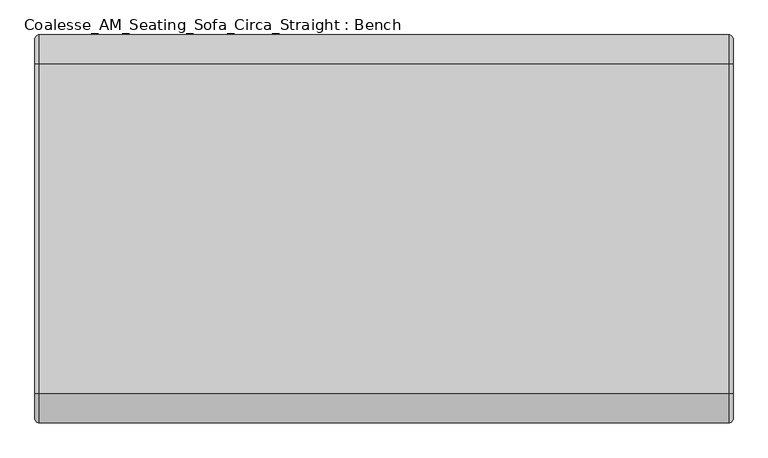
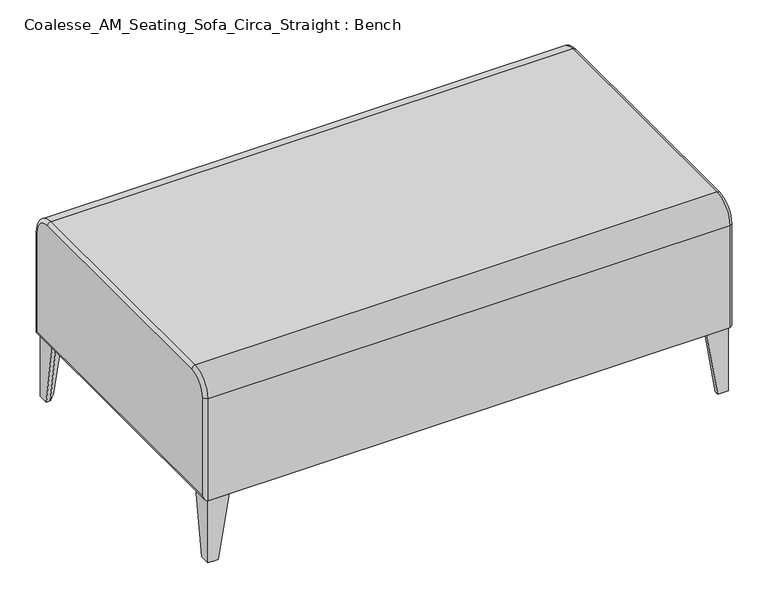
"""IFC4 building model written with IfcOpenShell, lengths in millimetres: furniture geometry, Coalesse_AM_Seating_Sofa_Circa_Straight : Bench."""

from ifc_helpers import new_model, si_unit, point, frame, origin, place, context, project, spatial, circle_curve, ellipse_curve, trimmed, source, transform, mapped, element, save
from ifc_brep_helpers import plane_surface, cylinder_surface, revolved_surface, spline_surface, advanced_brep


def coalesse_am_seating_sofa_circa_straight_bench_58bbb06b(model_context):
    return source(origin(), model_context, "Body", "AdvancedBrep", [
        advanced_brep(
        [(595.8545628, 917.5478073, 0.0), (595.8545628, 892.1487762, 0.0), (586.3301441, 892.1487762, 0.0), (570.4555317, 908.0230979, 0.0), (570.4555317, 917.5478073, 0.0), (595.8545628, 917.5478073, 159.3946494), (545.057082, 917.5475166, 159.3946494), (545.057082, 908.0230979, 159.3946494), (586.3301441, 866.7503265, 159.3946494), (595.8545628, 866.7503265, 159.3946494)],
        [
            (0, 1),
            (1, 2),
            (2, 3),
            (3, 4),
            (4, 0),
            (5, 6),
            (6, 7),
            (7, 8),
            (8, 9),
            (9, 5),
            (9, 1),
            (0, 5),
            (8, 2),
            (7, 3),
            (6, 4),
        ],
        [
            plane_surface(frame((583.7900666, 905.483253, 0.0), z_axis=(0.0, 0.0, -1.0000000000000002), x_axis=(0.7071132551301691, -0.7071003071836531, 0.0))),
            plane_surface(frame((573.6306867, 895.323815, 159.3946494), z_axis=(0.0, 0.0, 1.0000000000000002), x_axis=(0.7071132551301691, -0.7071003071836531, 0.0))),
            plane_surface(frame((595.8545628, 892.1490669, 159.3946494), z_axis=(1.0, 0.0, 0.0), x_axis=(0.0, -1.0, 0.0))),
            plane_surface(frame((591.0923534, 866.7503265, 159.3946494), z_axis=(0.0, -0.987541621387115, -0.15735801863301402), x_axis=(-1.0, 0.0, 0.0))),
            spline_surface(1, 1, [[(586.3301441, 866.7503265, 159.3946494), (586.3301441, 892.1487762, 0.0)], [(545.057082, 908.0230979, 159.3946494), (570.4555317, 908.0230979, 0.0)]], [2, 2], [2, 2], [0.0, 1.0], [0.0, 1.0]),
            plane_surface(frame((545.057082, 912.7853073, 159.3946494), z_axis=(-0.9875416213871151, 0.0, -0.15735801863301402), x_axis=(0.0, 1.0, 0.0))),
            spline_surface(1, 1, [[(545.057082, 917.5475166, 159.3946494), (570.4555317, 917.5478073, 0.0)], [(595.8545628, 917.5478073, 159.3946494), (595.8545628, 917.5478073, 0.0)]], [2, 2], [2, 2], [0.0, 1.0], [0.0, 1.0]),
        ],
        [
            (0, [[1, 2, 3, 4, 5]]),
            (1, [[6, 7, 8, 9, 10]]),
            (2, [[-10, 11, -1, 12]]),
            (3, [[-9, 13, -2, -11]]),
            (4, [[-8, 14, -3, -13]]),
            (5, [[-7, 15, -4, -14]]),
            (6, [[-6, -12, -5, -15]]),
        ],
    ),
        advanced_brep(
        [(-654.2661855, 917.5993121, 0.0), (-628.8671545, 917.5993121, 0.0), (-628.8671545, 908.07473, 0.0), (-644.7411855, 892.2004991, 0.0), (-654.2661855, 892.2004991, 0.0), (-654.2661855, 917.5993121, 159.3946494), (-654.2661855, 866.8017405, 159.3946494), (-644.7411855, 866.8017405, 159.3946494), (-603.4687048, 908.0746936, 159.3946494), (-603.4687048, 917.5992576, 159.3946494)],
        [
            (0, 1),
            (1, 2),
            (2, 3),
            (3, 4),
            (4, 0),
            (5, 6),
            (6, 7),
            (7, 8),
            (8, 9),
            (9, 5),
            (9, 1),
            (0, 5),
            (8, 2),
            (7, 3),
            (6, 4),
        ],
        [
            plane_surface(frame((-642.2015731, 905.5348705, 0.0), z_axis=(0.0, 0.0, -1.0), x_axis=(0.7071023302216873, 0.7071112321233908, 0.0))),
            plane_surface(frame((-632.0421932, 895.3753489, 159.3946494), z_axis=(0.0, 0.0, 1.0), x_axis=(0.7071023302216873, 0.7071112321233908, 0.0))),
            spline_surface(1, 1, [[(-654.2661855, 917.5993121, 159.3946494), (-654.2661855, 917.5993121, 0.0)], [(-603.4687048, 917.5992576, 159.3946494), (-628.8671545, 917.5993121, 0.0)]], [2, 2], [2, 2], [0.0, 1.0], [0.0, 1.0]),
            plane_surface(frame((-603.4687048, 912.8369756, 159.3946494), z_axis=(0.9875416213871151, 0.0, -0.15735801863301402), x_axis=(0.0, -1.0, 0.0))),
            spline_surface(1, 1, [[(-603.4687048, 908.0746936, 159.3946494), (-628.8671545, 908.07473, 0.0)], [(-644.7411855, 866.8017405, 159.3946494), (-644.7411855, 892.2004991, 0.0)]], [2, 2], [2, 2], [0.0, 1.0], [0.0, 1.0]),
            plane_surface(frame((-649.5036855, 866.8017405, 159.3946494), z_axis=(0.0, -0.9875413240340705, -0.15735988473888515), x_axis=(-1.0, 0.0, 0.0))),
            plane_surface(frame((-654.2661855, 892.2005263, 159.3946494), z_axis=(-1.0, 0.0, 0.0), x_axis=(0.0, 1.0, 0.0))),
        ],
        [
            (0, [[1, 2, 3, 4, 5]]),
            (1, [[6, 7, 8, 9, 10]]),
            (2, [[-10, 11, -1, 12]]),
            (3, [[-9, 13, -2, -11]]),
            (4, [[-8, 14, -3, -13]]),
            (5, [[-7, 15, -4, -14]]),
            (6, [[-6, -12, -5, -15]]),
        ],
    ),
        advanced_brep(
        [(570.4555317, 228.8261833, 0.0), (586.3301441, 244.700505, 0.0), (595.8545628, 244.700505, 0.0), (595.8545628, 219.3017646, 0.0), (570.4561131, 219.3017646, 0.0), (545.057082, 228.8261833, 159.3946494), (545.057082, 219.3017646, 159.3946494), (595.8545628, 219.3017646, 159.3946494), (595.8545628, 270.0992454, 159.3946494), (586.3301441, 270.0992454, 159.3946494)],
        [
            (0, 1),
            (1, 2),
            (2, 3),
            (3, 4),
            (4, 0),
            (5, 6),
            (6, 7),
            (7, 8),
            (8, 9),
            (9, 5),
            (9, 1),
            (0, 5),
            (8, 2),
            (7, 3),
            (6, 4),
        ],
        [
            plane_surface(frame((583.7901829, 231.3661445, 0.0), z_axis=(0.0, 0.0, -1.0), x_axis=(6.103888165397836e-05, -0.9999999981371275, 0.0))),
            plane_surface(frame((573.6306867, 241.5256407, 159.3946494), z_axis=(0.0, 0.0, 1.0), x_axis=(6.103888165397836e-05, -0.9999999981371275, 0.0))),
            spline_surface(1, 1, [[(545.057082, 228.8261833, 159.3946494), (570.4555317, 228.8261833, 0.0)], [(586.3301441, 270.0992454, 159.3946494), (586.3301441, 244.700505, 0.0)]], [2, 2], [2, 2], [0.0, 1.0], [0.0, 1.0]),
            plane_surface(frame((591.0923534, 270.0992454, 159.3946494), z_axis=(0.0, 0.9875413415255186, -0.1573597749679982), x_axis=(1.0, 0.0, 0.0))),
            plane_surface(frame((595.8545628, 244.700505, 159.3946494), z_axis=(1.0, 0.0, 0.0), x_axis=(0.0, -1.0, 0.0))),
            plane_surface(frame((570.4558224, 219.3017646, 159.3946494), z_axis=(0.0, -1.0, 0.0), x_axis=(-1.0, 0.0, 0.0))),
            spline_surface(1, 1, [[(545.057082, 219.3017646, 159.3946494), (570.4561131, 219.3017646, 0.0)], [(545.057082, 228.8261833, 159.3946494), (570.4555317, 228.8261833, 0.0)]], [2, 2], [2, 2], [0.0, 1.0], [0.0, 1.0]),
        ],
        [
            (0, [[1, 2, 3, 4, 5]]),
            (1, [[6, 7, 8, 9, 10]]),
            (2, [[-10, 11, -1, 12]]),
            (3, [[-9, 13, -2, -11]]),
            (4, [[-8, 14, -3, -13]]),
            (5, [[-7, 15, -4, -14]]),
            (6, [[-6, -12, -5, -15]]),
        ],
    ),
        advanced_brep(
        [(-654.2656042, 219.3521007, 0.0), (-654.2656042, 244.7521007, 0.0), (-644.7411855, 244.7521734, 0.0), (-628.8671545, 228.8778516, 0.0), (-628.8671545, 219.3521007, 0.0), (-654.2661855, 219.3532877, 159.3946494), (-603.4681234, 219.3533603, 159.3946494), (-603.4681234, 228.877997, 159.3946494), (-644.7411855, 270.1507684, 159.3946494), (-654.2661855, 270.1507684, 159.3946494)],
        [
            (0, 1),
            (1, 2),
            (2, 3),
            (3, 4),
            (4, 0),
            (5, 6),
            (6, 7),
            (7, 8),
            (8, 9),
            (9, 5),
            (9, 1),
            (0, 5),
            (8, 2),
            (7, 3),
            (6, 4),
        ],
        [
            plane_surface(frame((-642.2013406, 231.4172654, 0.0), z_axis=(0.0, 0.0, -1.0), x_axis=(0.0, -1.0, 0.0))),
            plane_surface(frame((-632.0419607, 241.5772364, 159.3946494), z_axis=(0.0, 0.0, 1.0), x_axis=(0.0, -1.0, 0.0))),
            plane_surface(frame((-654.2661855, 244.752028, 159.3946494), z_axis=(-0.9999999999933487, 0.0, -3.647298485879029e-06), x_axis=(0.0, 1.0, 0.0))),
            spline_surface(1, 1, [[(-654.2661855, 270.1507684, 159.3946494), (-654.2656042, 244.7521007, 0.0)], [(-644.7411855, 270.1507684, 159.3946494), (-644.7411855, 244.7521734, 0.0)]], [2, 2], [2, 2], [0.0, 1.0], [0.0, 1.0]),
            spline_surface(1, 1, [[(-644.7411855, 270.1507684, 159.3946494), (-644.7411855, 244.7521734, 0.0)], [(-603.4681234, 228.877997, 159.3946494), (-628.8671545, 228.8778516, 0.0)]], [2, 2], [2, 2], [0.0, 1.0], [0.0, 1.0]),
            plane_surface(frame((-603.4681234, 224.1156786, 159.3946494), z_axis=(0.9875410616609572, 0.0, -0.1573615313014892), x_axis=(0.0, -1.0, 0.0))),
            spline_surface(1, 1, [[(-603.4681234, 219.3533603, 159.3946494), (-628.8671545, 219.3521007, 0.0)], [(-654.2661855, 219.3532877, 159.3946494), (-654.2656042, 219.3521007, 0.0)]], [2, 2], [2, 2], [0.0, 1.0], [0.0, 1.0]),
        ],
        [
            (0, [[1, 2, 3, 4, 5]]),
            (1, [[6, 7, 8, 9, 10]]),
            (2, [[-10, 11, -1, 12]]),
            (3, [[-9, 13, -2, -11]]),
            (4, [[-8, 14, -3, -13]]),
            (5, [[-7, 15, -4, -14]]),
            (6, [[-6, -12, -5, -15]]),
        ],
    ),
        advanced_brep(
        [(597.9799136, 216.2403236, 419.7526008), (-655.8157576, 216.2403236, 419.7526008), (-655.8157576, 216.2403236, 160.6436337), (597.9799136, 216.2403236, 160.6436337), (-663.917922, 224.342488, 419.7526008), (-663.917922, 224.342488, 168.7457981), (-655.8157576, 269.8674471, 473.3797243), (597.9799136, 269.8674471, 473.3797243), (597.9799136, 868.9447213, 473.3797243), (-655.8157576, 868.9447213, 473.3797243), (-663.917922, 269.8674471, 465.2775599), (-663.917922, 868.9447213, 465.2775599), (606.082078, 269.8674471, 465.2775599), (606.082078, 868.9447213, 465.2775599), (597.9799136, 922.7653958, 419.5590499), (-655.8157576, 922.7653958, 419.5590499), (-663.917922, 914.6632313, 419.5590499), (606.082078, 914.6632313, 419.5590499), (597.9799136, 922.5293225, 160.6436337), (-655.8157576, 922.5293225, 160.6436337), (-663.917922, 914.4345422, 168.7457981), (606.082078, 914.4345422, 168.7457981), (606.082078, 224.342488, 168.7457981), (606.082078, 224.342488, 419.7526008)],
        [
            (0, 1),
            (1, 2),
            (2, 3),
            (3, 0),
            (1, 4, circle_curve(frame((-655.8157576, 224.342488, 419.7526008), z_axis=(0.0, 0.0, -1.0), x_axis=(0.0, 1.0, 0.0)), 8.1021644)),
            (4, 5),
            (5, 2, ellipse_curve(frame((-655.8157576, 224.342488, 168.7457981), z_axis=(0.0, -0.7071067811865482, 0.7071067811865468), x_axis=(0.0, -0.7071067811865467, -0.7071067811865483)), 11.4581908, 8.1021644)),
            (6, 7),
            (7, 8),
            (8, 9),
            (9, 6),
            (10, 6, circle_curve(frame((-655.8157576, 269.8674471, 465.2775599), z_axis=(0.0, 1.0, 0.0), x_axis=(0.0, 0.0, -1.0)), 8.1021644)),
            (9, 11, circle_curve(frame((-655.8157576, 868.9447213, 465.2775599), z_axis=(0.0, -1.0, 0.0), x_axis=(0.0, 0.0, -1.0)), 8.1021644)),
            (11, 10),
            (12, 13),
            (13, 8, circle_curve(frame((597.9799136, 868.9447213, 465.2775599), z_axis=(0.0, -1.0, 0.0), x_axis=(0.0, 0.0, -1.0)), 8.1021644)),
            (7, 12, circle_curve(frame((597.9799136, 269.8674471, 465.2775599), z_axis=(0.0, 1.0, 0.0), x_axis=(0.0, 0.0, -1.0)), 8.1021644)),
            (8, 14, circle_curve(frame((597.9799136, 868.9447213, 419.5590499), z_axis=(-1.0, 0.0, 0.0), x_axis=(0.0, 0.0, 1.0)), 53.8206744)),
            (14, 15),
            (15, 9, circle_curve(frame((-655.8157576, 868.9447213, 419.5590499), z_axis=(1.0, 0.0, 0.0), x_axis=(0.0, 0.0, 1.0)), 53.8206744)),
            (16, 11, circle_curve(frame((-663.917922, 868.9447213, 419.5590499), z_axis=(1.0, 0.0, 0.0), x_axis=(0.0, 0.0, 1.0)), 45.71851)),
            (15, 16, circle_curve(frame((-655.8157576, 914.6632313, 419.5590499), z_axis=(0.0, 0.0, 1.0), x_axis=(0.0, -1.0, 0.0)), 8.1021644)),
            (13, 17, circle_curve(frame((606.082078, 868.9447213, 419.5590499), z_axis=(-1.0, 0.0, 0.0), x_axis=(0.0, 0.0, 1.0)), 45.71851)),
            (17, 14, circle_curve(frame((597.9799136, 914.6632313, 419.5590499), z_axis=(0.0, 0.0, 1.0), x_axis=(0.0, -1.0, 0.0)), 8.1021644)),
            (14, 18),
            (18, 19),
            (19, 15),
            (20, 16),
            (19, 20, ellipse_curve(frame((-655.8157576, 914.4345422, 168.7457981), z_axis=(0.0, 0.7074290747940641, 0.7067843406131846), x_axis=(0.0, -0.7067843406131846, 0.7074290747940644)), 11.4529706, 8.1021644)),
            (17, 21),
            (21, 18, ellipse_curve(frame((597.9799136, 914.4345422, 168.7457981), z_axis=(0.0, 0.7074290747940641, 0.7067843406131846), x_axis=(0.0, -0.7067843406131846, 0.7074290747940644)), 11.4529706, 8.1021644)),
            (18, 3),
            (2, 19),
            (5, 20),
            (21, 22),
            (22, 3, ellipse_curve(frame((597.9799136, 224.342488, 168.7457981), z_axis=(0.0, 0.7071067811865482, -0.7071067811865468), x_axis=(0.0, 0.7071067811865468, 0.7071067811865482)), 11.4581908, 8.1021644)),
            (22, 23),
            (23, 0, circle_curve(frame((597.9799136, 224.342488, 419.7526008), z_axis=(0.0, 0.0, -1.0), x_axis=(0.0, 1.0, 0.0)), 8.1021644)),
            (6, 1, circle_curve(frame((-655.8157576, 269.8674471, 419.7526008), z_axis=(1.0, 0.0, 0.0), x_axis=(0.0, -1.0, 0.0)), 53.6271235)),
            (0, 7, circle_curve(frame((597.9799136, 269.8674471, 419.7526008), z_axis=(-1.0, 0.0, 0.0), x_axis=(0.0, -1.0, 0.0)), 53.6271235)),
            (10, 4, circle_curve(frame((-663.917922, 269.8674471, 419.7526008), z_axis=(1.0, 0.0, 0.0), x_axis=(0.0, -1.0, 0.0)), 45.5249591)),
            (12, 23, circle_curve(frame((606.082078, 269.8674471, 419.7526008), z_axis=(1.0, 0.0, 0.0), x_axis=(0.0, -1.0, 0.0)), 45.5249591)),
        ],
        [
            plane_surface(frame((597.9799136, 216.2403236, 160.6436337), z_axis=(0.0, -1.0, 0.0), x_axis=(0.0, 0.0, 1.0))),
            cylinder_surface(frame((-655.8157576, 224.342488, 169.8207572), z_axis=(0.0, 0.0, -1.0), x_axis=(0.0, 1.0, 0.0)), 8.1021644),
            plane_surface(frame((597.9799136, 269.8674471, 473.3797243), z_axis=(0.0, 0.0, 1.0), x_axis=(0.0, 1.0, 0.0))),
            cylinder_surface(frame((-655.8157576, 269.8674471, 465.2775599), z_axis=(0.0, -1.0, 0.0), x_axis=(0.0, 0.0, -1.0)), 8.1021644),
            cylinder_surface(frame((597.9799136, 269.8674471, 465.2775599), z_axis=(0.0, -1.0, 0.0), x_axis=(0.0, 0.0, -1.0)), 8.1021644),
            cylinder_surface(frame((-656.6258833, 868.9447213, 419.5590499), z_axis=(-1.0, 0.0, 0.0), x_axis=(0.0, 0.0, 1.0)), 53.8206744),
            revolved_surface(trimmed(ellipse_curve(frame((-655.8157576, 868.9447213, 465.2775599), z_axis=(0.0, -1.0, 0.0), x_axis=(0.0, 0.0, -1.0)), 8.1021644, 8.1021644), [point((-655.8157576, 868.9447213, 473.3797243))], [point((-663.917922, 868.9447213, 465.2775599))], True, "CARTESIAN"), (-656.6258833, 868.9447213, 419.5590499), (-1.0, 0.0, 0.0)),
            revolved_surface(trimmed(ellipse_curve(frame((597.9799136, 868.9447213, 465.2775599), z_axis=(0.0, -1.0, 0.0), x_axis=(0.0, 0.0, -1.0)), 8.1021644, 8.1021644), [point((606.082078, 868.9447213, 465.2775599))], [point((597.9799136, 868.9447213, 473.3797243))], True, "CARTESIAN"), (-656.6258833, 868.9447213, 419.5590499), (-1.0, 0.0, 0.0)),
            plane_surface(frame((597.9799136, 922.7653996, 419.5590499), z_axis=(0.0, 0.9999995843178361, -0.0009117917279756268), x_axis=(0.0, -0.0009117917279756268, -0.9999995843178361))),
            cylinder_surface(frame((-655.8157576, 914.6632309, 419.5580697), z_axis=(0.0, 0.0009117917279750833, 0.9999995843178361), x_axis=(0.0, -0.9999995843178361, 0.0009117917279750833)), 8.1021644),
            cylinder_surface(frame((597.9799136, 914.6632309, 419.5580697), z_axis=(0.0, 0.0009117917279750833, 0.9999995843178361), x_axis=(0.0, -0.9999995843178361, 0.0009117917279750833)), 8.1021644),
            plane_surface(frame((597.9799136, 922.5293225, 160.6436337), z_axis=(0.0, 0.0, -1.0), x_axis=(0.0, -1.0, 0.0))),
            cylinder_surface(frame((-655.8157576, 913.3605629, 168.7457981), z_axis=(0.0, 1.0, 0.0), x_axis=(0.0, 0.0, 1.0)), 8.1021644),
            cylinder_surface(frame((597.9799136, 913.3605629, 168.7457981), z_axis=(0.0, 1.0, 0.0), x_axis=(0.0, 0.0, 1.0)), 8.1021644),
            cylinder_surface(frame((597.9799136, 224.342488, 169.8207572), z_axis=(0.0, 0.0, -1.0), x_axis=(0.0, 1.0, 0.0)), 8.1021644),
            cylinder_surface(frame((-656.6258833, 269.8674471, 419.7526008), z_axis=(-1.0, 0.0, 0.0), x_axis=(0.0, -1.0, 0.0)), 53.6271235),
            revolved_surface(trimmed(ellipse_curve(frame((-655.8157576, 224.342488, 419.7526008), z_axis=(0.0, 0.0, -1.0), x_axis=(0.0, 1.0, 0.0)), 8.1021644, 8.1021644), [point((-655.8157576, 216.2403236, 419.7526008))], [point((-663.917922, 224.342488, 419.7526008))], True, "CARTESIAN"), (-656.6258833, 269.8674471, 419.7526008), (-1.0, 0.0, 0.0)),
            plane_surface(frame((-663.917922, 269.8674471, 419.7526008), z_axis=(-1.0, 0.0, 0.0), x_axis=(0.0, -1.0, 0.0))),
            plane_surface(frame((606.082078, 269.8674471, 419.7526008), z_axis=(1.0, 0.0, 0.0), x_axis=(0.0, -1.0, 0.0))),
            revolved_surface(trimmed(ellipse_curve(frame((597.9799136, 224.342488, 419.7526008), z_axis=(0.0, 0.0, -1.0), x_axis=(0.0, 1.0, 0.0)), 8.1021644, 8.1021644), [point((606.082078, 224.342488, 419.7526008))], [point((597.9799136, 216.2403236, 419.7526008))], True, "CARTESIAN"), (-656.6258833, 269.8674471, 419.7526008), (-1.0, 0.0, 0.0)),
        ],
        [
            (0, [[1, 2, 3, 4]]),
            (1, [[5, 6, 7, -2]]),
            (2, [[8, 9, 10, 11]]),
            (3, [[12, -11, 13, 14]]),
            (4, [[15, 16, -9, 17]]),
            (5, [[-10, 18, 19, 20]]),
            (6, [[21, -13, -20, 22]]),
            (7, [[23, 24, -18, -16]]),
            (8, [[-19, 25, 26, 27]]),
            (9, [[28, -22, -27, 29]]),
            (10, [[30, 31, -25, -24]]),
            (11, [[-26, 32, -3, 33]]),
            (12, [[34, -29, -33, -7]]),
            (13, [[35, 36, -32, -31]]),
            (14, [[37, 38, -4, -36]]),
            (15, [[39, -1, 40, -8]]),
            (16, [[-39, -12, 41, -5]]),
            (17, [[-41, -14, -21, -28, -34, -6]]),
            (18, [[42, -37, -35, -30, -23, -15]]),
            (19, [[-40, -38, -42, -17]]),
        ],
    ),
    ])


if __name__ == "__main__":
    model = new_model("IFC4")
    model_context = context("Model", 3, world=origin())
    ifc_project = project(units=[si_unit("LENGTHUNIT", "METRE", prefix="MILLI")], contexts=[model_context])
    site = spatial("IfcSite", under=ifc_project)
    building = spatial("IfcBuilding", under=site)
    placement = place(None, origin())
    coalesse_am_seating_sofa_circa_straight_bench_shape = coalesse_am_seating_sofa_circa_straight_bench_58bbb06b(model_context)
    element("IfcFurniture", 1, ObjectType="Coalesse_AM_Seating_Sofa_Circa_Straight : Bench", at=placement, inside=building, context=model_context, shape_type="MappedRepresentation", body=[
        mapped(coalesse_am_seating_sofa_circa_straight_bench_shape, transform((0.0, 0.0, 0.0), x_axis=(1.0, 0.0, 0.0), y_axis=(0.0, 1.0, 0.0), z_axis=(0.0, 0.0, 1.0))),
    ])
    save(model, "model.ifc")
